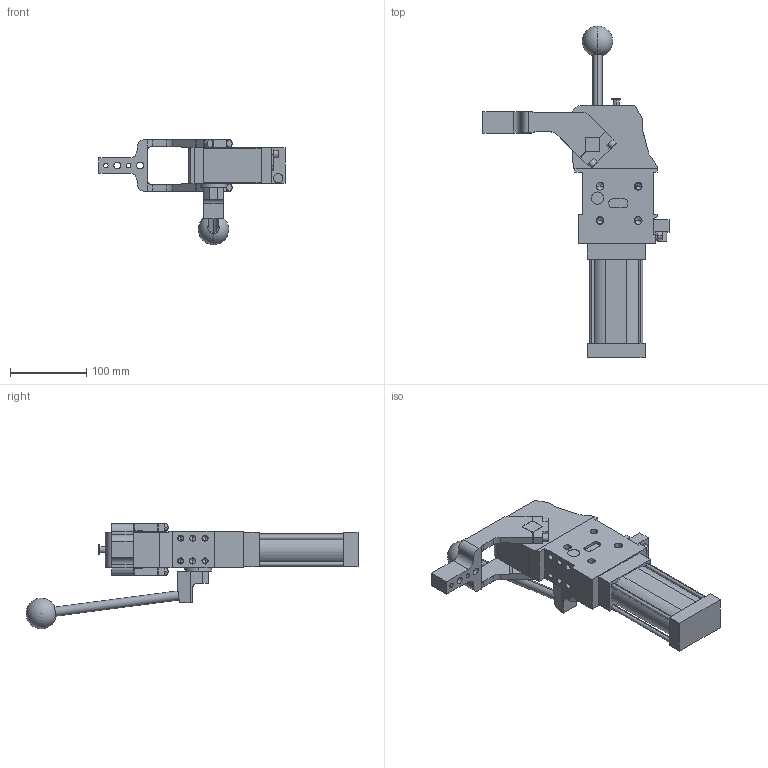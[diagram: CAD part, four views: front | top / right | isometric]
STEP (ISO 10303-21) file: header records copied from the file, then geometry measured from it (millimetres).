
FILE_DESCRIPTION (( 'STEP AP214' ), '1' );
FILE_NAME ('cplm50lbv1ci1g_135.STEP', '2023-01-26T13:13:15', ( '' ), ( '' ), 'SwSTEP 2.0', 'SolidWorks 2022', '' );
FILE_SCHEMA (( 'AUTOMOTIVE_DESIGN' ));
Length unit declared in the file: millimetre
Products named in the file (5): comando_manuale_cplm_50; meccanica_cplm_50; cplm50lbv1ci1g_135; leva_cx_offset_15_cpl50; blocchetto_VEP_0
Assembly tree (4 placements, depth 2):
  cplm50lbv1ci1g_135
    meccanica_cplm_50
    blocchetto_VEP_0
    leva_cx_offset_15_cpl50
    comando_manuale_cplm_50
Bounding box: 244.5 x 436.23 x 138.5 mm (x, y, z)
Volume: 1459795.2 mm3; surface area: 180083.6 mm2
Topology: 4 solids, 4 shells, 431 faces, 1108 edges, 691 vertices
Faces by surface type: plane 212, cylinder 167, cone 50, sphere 2
Entity records: 14373 total; most frequent: DIRECTION 2287, CARTESIAN_POINT 2253, ORIENTED_EDGE 2114, EDGE_CURVE 1057, AXIS2_PLACEMENT_3D 796, VECTOR 695, LINE 695, VERTEX_POINT 688
